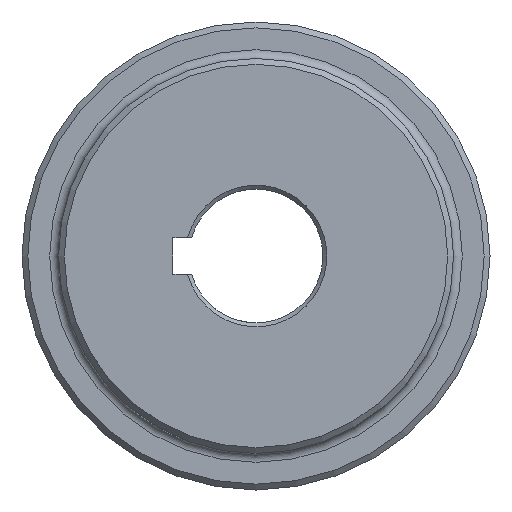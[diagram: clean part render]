
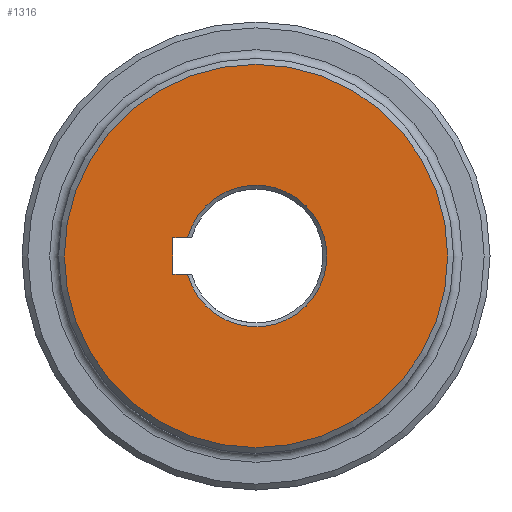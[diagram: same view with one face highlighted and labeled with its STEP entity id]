
A CAD part, left-side view. The second image highlights one B-rep face of the part: STEP entity #1316.
In plain terms, the highlighted planar face has unit normal (-1, 0, 0).
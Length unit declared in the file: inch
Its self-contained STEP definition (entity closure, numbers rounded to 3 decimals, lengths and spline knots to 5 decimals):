
#1 = DIRECTION ( 'NONE',  ( 0., 0., -1. ) ) ;
#230 = DIRECTION ( 'NONE',  ( 0., 0., -1. ) ) ;
#284 = LINE ( 'NONE', #1109, #1726 ) ;
#343 = AXIS2_PLACEMENT_3D ( 'NONE', #1896, #1100, #2579 ) ;
#360 = EDGE_CURVE ( 'NONE', #646, #1526, #2124, .T. ) ;
#380 = ORIENTED_EDGE ( 'NONE', *, *, #1469, .T. ) ;
#415 = VERTEX_POINT ( 'NONE', #725 ) ;
#455 = ORIENTED_EDGE ( 'NONE', *, *, #360, .F. ) ;
#646 = VERTEX_POINT ( 'NONE', #695 ) ;
#650 = CARTESIAN_POINT ( 'NONE',  ( 0., 0., 0. ) ) ;
#695 = CARTESIAN_POINT ( 'NONE',  ( 0., 0.85425, -0.1875 ) ) ;
#725 = CARTESIAN_POINT ( 'NONE',  ( 0., 0.70318, 0.1875 ) ) ;
#734 = EDGE_CURVE ( 'NONE', #415, #1526, #2747, .T. ) ;
#804 = CARTESIAN_POINT ( 'NONE',  ( 0., 0., -1.97 ) ) ;
#838 = EDGE_LOOP ( 'NONE', ( #380 ) ) ;
#845 = DIRECTION ( 'NONE',  ( 0., 0., -1. ) ) ;
#874 = CARTESIAN_POINT ( 'NONE',  ( 0., 0., -0.1875 ) ) ;
#875 = LINE ( 'NONE', #2751, #1544 ) ;
#1058 = CIRCLE ( 'NONE', #343, 1.97 ) ;
#1100 = DIRECTION ( 'NONE',  ( -1., 0., 0. ) ) ;
#1109 = CARTESIAN_POINT ( 'NONE',  ( 0., 0., 0.1875 ) ) ;
#1135 = PLANE ( 'NONE',  #2212 ) ;
#1231 = EDGE_CURVE ( 'NONE', #2654, #646, #875, .T. ) ;
#1316 = ADVANCED_FACE ( 'NONE', ( #2474, #1663 ), #1135, .F. ) ;
#1460 = ORIENTED_EDGE ( 'NONE', *, *, #1231, .F. ) ;
#1469 = EDGE_CURVE ( 'NONE', #1607, #1607, #1058, .T. ) ;
#1526 = VERTEX_POINT ( 'NONE', #1815 ) ;
#1544 = VECTOR ( 'NONE', #1, 39.37008 ) ;
#1607 = VERTEX_POINT ( 'NONE', #804 ) ;
#1663 = FACE_BOUND ( 'NONE', #2776, .T. ) ;
#1726 = VECTOR ( 'NONE', #1903, 39.37008 ) ;
#1785 = ORIENTED_EDGE ( 'NONE', *, *, #734, .T. ) ;
#1815 = CARTESIAN_POINT ( 'NONE',  ( 0., 0.70318, -0.1875 ) ) ;
#1896 = CARTESIAN_POINT ( 'NONE',  ( 0., 0., 0. ) ) ;
#1903 = DIRECTION ( 'NONE',  ( 0., 1., 0. ) ) ;
#2007 = VECTOR ( 'NONE', #2757, 39.37008 ) ;
#2124 = LINE ( 'NONE', #874, #2007 ) ;
#2212 = AXIS2_PLACEMENT_3D ( 'NONE', #2427, #2707, #230 ) ;
#2226 = ORIENTED_EDGE ( 'NONE', *, *, #2411, .F. ) ;
#2275 = DIRECTION ( 'NONE',  ( 1., 0., 0. ) ) ;
#2411 = EDGE_CURVE ( 'NONE', #415, #2654, #284, .T. ) ;
#2427 = CARTESIAN_POINT ( 'NONE',  ( 0., 0., 0. ) ) ;
#2474 = FACE_OUTER_BOUND ( 'NONE', #838, .T. ) ;
#2534 = AXIS2_PLACEMENT_3D ( 'NONE', #650, #2275, #845 ) ;
#2579 = DIRECTION ( 'NONE',  ( 0., 0., -1. ) ) ;
#2603 = CARTESIAN_POINT ( 'NONE',  ( 0., 0.85425, 0.1875 ) ) ;
#2654 = VERTEX_POINT ( 'NONE', #2603 ) ;
#2707 = DIRECTION ( 'NONE',  ( 1., 0., 0. ) ) ;
#2747 = CIRCLE ( 'NONE', #2534, 0.72775 ) ;
#2751 = CARTESIAN_POINT ( 'NONE',  ( 0., 0.85425, -0.1875 ) ) ;
#2757 = DIRECTION ( 'NONE',  ( 0., -1., 0. ) ) ;
#2776 = EDGE_LOOP ( 'NONE', ( #2226, #1785, #455, #1460 ) ) ;
